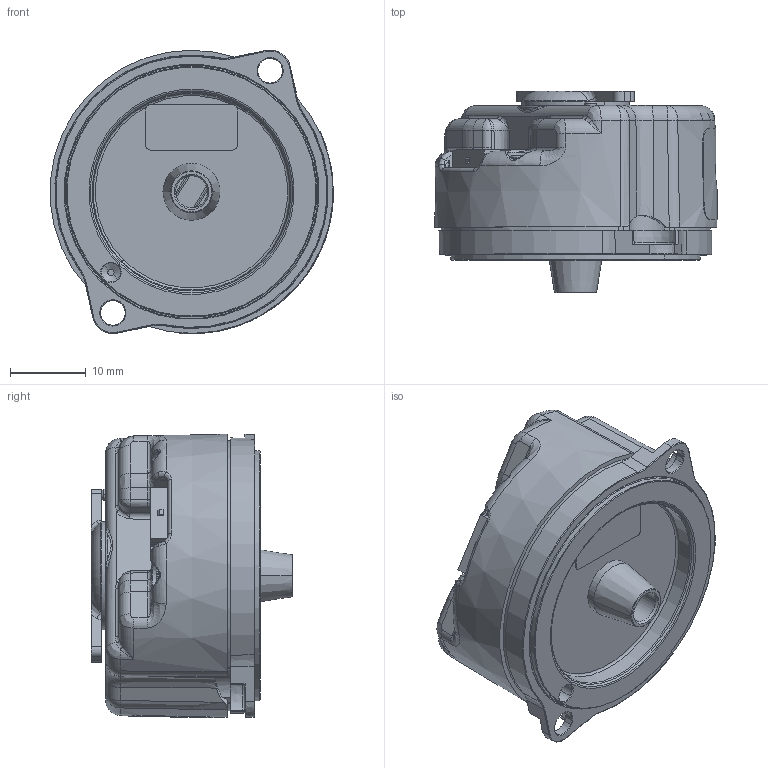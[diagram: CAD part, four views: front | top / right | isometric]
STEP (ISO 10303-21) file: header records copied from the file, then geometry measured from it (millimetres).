
FILE_DESCRIPTION((''),'2;1');
FILE_NAME('D-582-039_000672407_SW0001','2024-09-18T',('andreas.woehrstein'),(''),'CREO PARAMETRIC BY PTC INC, 2018360','CREO PARAMETRIC BY PTC INC, 2018360','');
FILE_SCHEMA(('AUTOMOTIVE_DESIGN { 1 0 10303 214 1 1 1 1 }'));
Products named in the file (1): D-582-039_000672407_SW0001
Bounding box: 37.26 x 26.55 x 37.35 mm (x, y, z)
Volume: 17491.2 mm3; surface area: 8854.4 mm2
Topology: 1 solids, 1 shells, 2730 faces, 7514 edges, 4722 vertices
Faces by surface type: plane 1489, cylinder 623, bspline 239, torus 175, cone 124, sphere 80
Entity records: 123382 total; most frequent: CARTESIAN_POINT 35977, ORIENTED_EDGE 15028, DIRECTION 13310, EDGE_CURVE 7514, VERTEX_POINT 4722, VECTOR 4566, LINE 4566, AXIS2_PLACEMENT_3D 4372
